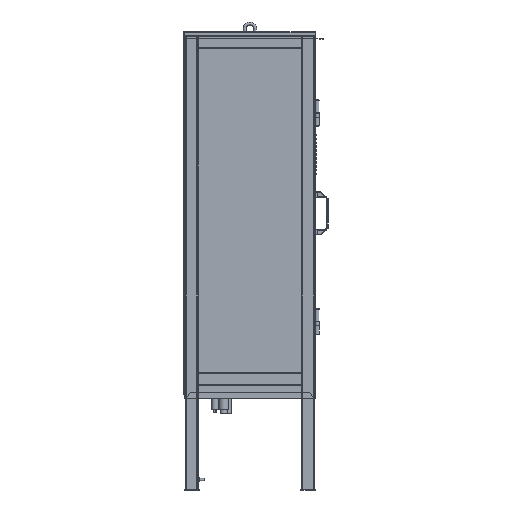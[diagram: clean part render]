
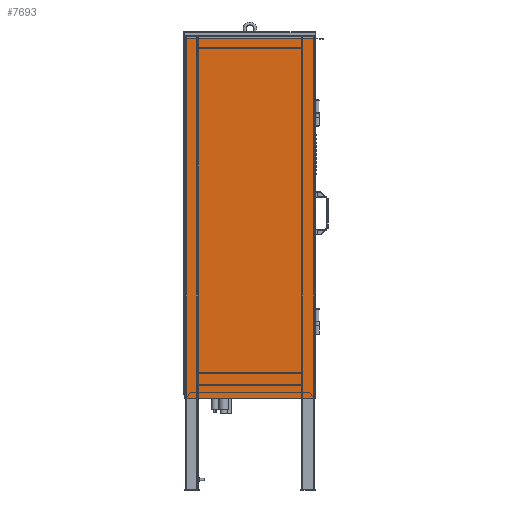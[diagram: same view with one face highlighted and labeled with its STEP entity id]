
A CAD part, left-side view. The second image highlights one B-rep face of the part: STEP entity #7693.
In plain terms, the highlighted planar face has unit normal (-1, 0, 0).
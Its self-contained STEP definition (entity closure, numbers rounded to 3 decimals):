
#7693=ADVANCED_FACE('',(#23049),#23051,.T.);
#23049=FACE_BOUND('',#23050,.T.);
#23050=EDGE_LOOP('',(#31201,#31202,#31203,#31204));
#23051=PLANE('',#23052);
#23052=AXIS2_PLACEMENT_3D('',#23053,#23054,#23055);
#23053=CARTESIAN_POINT('',(-675.8,224.,-676.5));
#23054=DIRECTION('',(-1.,0.,0.));
#23055=DIRECTION('',(0.,-1.,0.));
#31201=ORIENTED_EDGE('',*,*,#36083,.T.);
#31202=ORIENTED_EDGE('',*,*,#36089,.T.);
#31203=ORIENTED_EDGE('',*,*,#36090,.T.);
#31204=ORIENTED_EDGE('',*,*,#36091,.T.);
#36083=EDGE_CURVE('',#41101,#41102,#41103,.T.);
#36089=EDGE_CURVE('',#41102,#41113,#41114,.T.);
#36090=EDGE_CURVE('',#41113,#41115,#41116,.T.);
#36091=EDGE_CURVE('',#41115,#41101,#41117,.T.);
#41101=VERTEX_POINT('',#53674);
#41102=VERTEX_POINT('',#53675);
#41103=LINE('',#53676,#53677);
#41113=VERTEX_POINT('',#53698);
#41114=LINE('',#53699,#53700);
#41115=VERTEX_POINT('',#53702);
#41116=LINE('',#53703,#53704);
#41117=LINE('',#53706,#53707);
#53674=CARTESIAN_POINT('',(-675.8,-26.,13.892));
#53675=CARTESIAN_POINT('',(-675.8,473.5,13.892));
#53676=CARTESIAN_POINT('',(-675.8,-26.,13.892));
#53677=VECTOR('',#53678,1.);
#53678=DIRECTION('',(0.,1.,0.));
#53698=CARTESIAN_POINT('',(-675.8,473.5,-1373.5));
#53699=CARTESIAN_POINT('',(-675.8,473.5,13.892));
#53700=VECTOR('',#53701,1.);
#53701=DIRECTION('',(0.,0.,-1.));
#53702=CARTESIAN_POINT('',(-675.8,-26.,-1373.5));
#53703=CARTESIAN_POINT('',(-675.8,473.5,-1373.5));
#53704=VECTOR('',#53705,1.);
#53705=DIRECTION('',(0.,-1.,0.));
#53706=CARTESIAN_POINT('',(-675.8,-26.,-1373.5));
#53707=VECTOR('',#53708,1.);
#53708=DIRECTION('',(0.,0.,1.));
